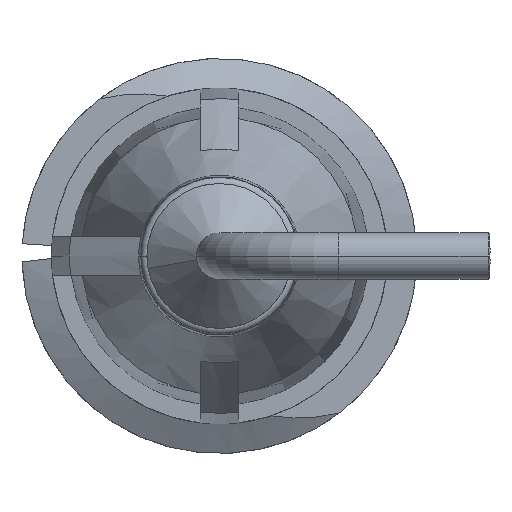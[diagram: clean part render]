
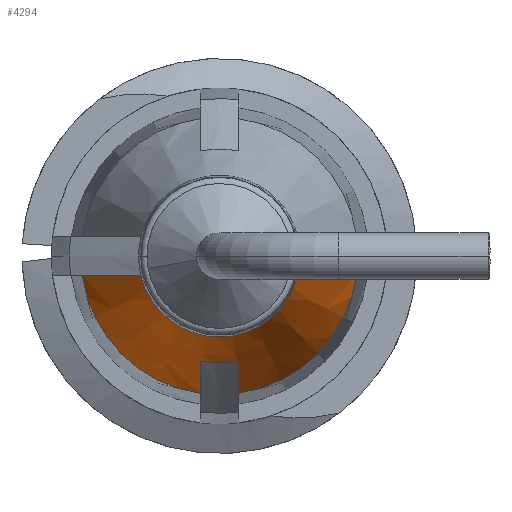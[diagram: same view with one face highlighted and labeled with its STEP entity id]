
A CAD part, front view. The second image highlights one B-rep face of the part: STEP entity #4294.
In plain terms, the highlighted conical face has half-angle 20 degrees and reference radius 2.745 mm.
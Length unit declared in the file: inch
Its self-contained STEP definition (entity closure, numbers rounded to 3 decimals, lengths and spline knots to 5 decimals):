
#20 = DIRECTION ( 'NONE',  ( 0., 1., 0. ) ) ;
#30 = B_SPLINE_CURVE_WITH_KNOTS ( 'NONE', 3,
 ( #3794, #2699, #1296, #1979 ),
 .UNSPECIFIED., .F., .F.,
 ( 4, 4 ),
 ( 0.00282, 0.00617 ),
 .UNSPECIFIED. ) ;
#45 = DIRECTION ( 'NONE',  ( 0., 1., 0. ) ) ;
#63 = DIRECTION ( 'NONE',  ( 1., 0., 0. ) ) ;
#87 = CARTESIAN_POINT ( 'NONE',  ( 0., -0.406, 0. ) ) ;
#95 = CARTESIAN_POINT ( 'NONE',  ( -0.015, -0.47395, -0.08198 ) ) ;
#260 = CONICAL_SURFACE ( 'NONE', #3918, 0.10808, 0.349 ) ;
#331 = CARTESIAN_POINT ( 'NONE',  ( 0.06119, -0.52985, -0.015 ) ) ;
#422 = ORIENTED_EDGE ( 'NONE', *, *, #4082, .T. ) ;
#437 = DIRECTION ( 'NONE',  ( 0., 1., 0. ) ) ;
#663 = CARTESIAN_POINT ( 'NONE',  ( -0.06119, -0.52985, -0.015 ) ) ;
#706 = VERTEX_POINT ( 'NONE', #663 ) ;
#764 = ORIENTED_EDGE ( 'NONE', *, *, #3597, .F. ) ;
#768 = DIRECTION ( 'NONE',  ( 1., 0., 0. ) ) ;
#1094 = CARTESIAN_POINT ( 'NONE',  ( 0., -0.52985, 0. ) ) ;
#1139 = CARTESIAN_POINT ( 'NONE',  ( 0., -0.406, 0. ) ) ;
#1167 = DIRECTION ( 'NONE',  ( 1., 0., 0. ) ) ;
#1175 = CARTESIAN_POINT ( 'NONE',  ( -0.015, -0.406, -0.10703 ) ) ;
#1215 = CARTESIAN_POINT ( 'NONE',  ( 0.015, -0.406, -0.10703 ) ) ;
#1243 = AXIS2_PLACEMENT_3D ( 'NONE', #3725, #437, #2405 ) ;
#1281 = CARTESIAN_POINT ( 'NONE',  ( 0.015, -0.406, -0.10703 ) ) ;
#1296 = CARTESIAN_POINT ( 'NONE',  ( -0.09185, -0.44732, -0.015 ) ) ;
#1444 = CARTESIAN_POINT ( 'NONE',  ( 0.10703, -0.406, -0.015 ) ) ;
#1502 = CARTESIAN_POINT ( 'NONE',  ( -0.015, -0.47395, -0.08198 ) ) ;
#1513 = CARTESIAN_POINT ( 'NONE',  ( 0.09185, -0.44732, -0.015 ) ) ;
#1580 = ORIENTED_EDGE ( 'NONE', *, *, #2225, .F. ) ;
#1598 = CARTESIAN_POINT ( 'NONE',  ( 0.015, -0.47395, -0.08198 ) ) ;
#1770 = CIRCLE ( 'NONE', #3755, 0.063 ) ;
#1806 = CARTESIAN_POINT ( 'NONE',  ( -0.015, -0.406, -0.10703 ) ) ;
#1854 = CIRCLE ( 'NONE', #3375, 0.10808 ) ;
#1949 = CARTESIAN_POINT ( 'NONE',  ( 0.015, -0.45131, -0.09036 ) ) ;
#1979 = CARTESIAN_POINT ( 'NONE',  ( -0.10703, -0.406, -0.015 ) ) ;
#1987 = EDGE_CURVE ( 'NONE', #3098, #2283, #3846, .T. ) ;
#2028 = ORIENTED_EDGE ( 'NONE', *, *, #1987, .F. ) ;
#2100 = ORIENTED_EDGE ( 'NONE', *, *, #4265, .F. ) ;
#2225 = EDGE_CURVE ( 'NONE', #3194, #3025, #4474, .T. ) ;
#2232 = EDGE_LOOP ( 'NONE', ( #2028, #4393, #422, #2100, #1580, #764, #3604, #2666 ) ) ;
#2271 = CARTESIAN_POINT ( 'NONE',  ( -0.015, -0.42866, -0.0987 ) ) ;
#2283 = VERTEX_POINT ( 'NONE', #3328 ) ;
#2317 = CARTESIAN_POINT ( 'NONE',  ( -0.015, -0.45131, -0.09036 ) ) ;
#2384 = CIRCLE ( 'NONE', #1243, 0.08335 ) ;
#2405 = DIRECTION ( 'NONE',  ( -1., 0., 0. ) ) ;
#2455 = EDGE_CURVE ( 'NONE', #4344, #4163, #4305, .T. ) ;
#2483 = CARTESIAN_POINT ( 'NONE',  ( 0.015, -0.47395, -0.08198 ) ) ;
#2592 = CARTESIAN_POINT ( 'NONE',  ( 0.06119, -0.52985, -0.015 ) ) ;
#2666 = ORIENTED_EDGE ( 'NONE', *, *, #3534, .F. ) ;
#2699 = CARTESIAN_POINT ( 'NONE',  ( -0.07664, -0.48863, -0.015 ) ) ;
#2883 = EDGE_CURVE ( 'NONE', #3098, #706, #1770, .T. ) ;
#2998 = FACE_OUTER_BOUND ( 'NONE', #2232, .T. ) ;
#3025 = VERTEX_POINT ( 'NONE', #1806 ) ;
#3098 = VERTEX_POINT ( 'NONE', #2592 ) ;
#3168 = AXIS2_PLACEMENT_3D ( 'NONE', #3325, #45, #63 ) ;
#3194 = VERTEX_POINT ( 'NONE', #1502 ) ;
#3325 = CARTESIAN_POINT ( 'NONE',  ( 0., -0.406, 0. ) ) ;
#3326 = CIRCLE ( 'NONE', #3168, 0.10808 ) ;
#3328 = CARTESIAN_POINT ( 'NONE',  ( 0.10703, -0.406, -0.015 ) ) ;
#3375 = AXIS2_PLACEMENT_3D ( 'NONE', #1139, #20, #4389 ) ;
#3534 = EDGE_CURVE ( 'NONE', #2283, #4344, #1854, .T. ) ;
#3597 = EDGE_CURVE ( 'NONE', #4163, #3194, #2384, .T. ) ;
#3604 = ORIENTED_EDGE ( 'NONE', *, *, #2455, .F. ) ;
#3677 = DIRECTION ( 'NONE',  ( 0., 1., 0. ) ) ;
#3725 = CARTESIAN_POINT ( 'NONE',  ( 0., -0.47395, 0. ) ) ;
#3726 = DIRECTION ( 'NONE',  ( 0., 1., 0. ) ) ;
#3739 = CARTESIAN_POINT ( 'NONE',  ( -0.10703, -0.406, -0.015 ) ) ;
#3755 = AXIS2_PLACEMENT_3D ( 'NONE', #1094, #3677, #768 ) ;
#3794 = CARTESIAN_POINT ( 'NONE',  ( -0.06119, -0.52985, -0.015 ) ) ;
#3805 = VERTEX_POINT ( 'NONE', #3739 ) ;
#3846 = B_SPLINE_CURVE_WITH_KNOTS ( 'NONE', 3,
 ( #331, #4718, #1513, #1444 ),
 .UNSPECIFIED., .F., .F.,
 ( 4, 4 ),
 ( 0.00282, 0.00617 ),
 .UNSPECIFIED. ) ;
#3918 = AXIS2_PLACEMENT_3D ( 'NONE', #87, #3726, #1167 ) ;
#4082 = EDGE_CURVE ( 'NONE', #706, #3805, #30, .T. ) ;
#4120 = CARTESIAN_POINT ( 'NONE',  ( 0.015, -0.42866, -0.0987 ) ) ;
#4163 = VERTEX_POINT ( 'NONE', #2483 ) ;
#4265 = EDGE_CURVE ( 'NONE', #3025, #3805, #3326, .T. ) ;
#4294 = ADVANCED_FACE ( 'NONE', ( #2998 ), #260, .T. ) ;
#4305 = B_SPLINE_CURVE_WITH_KNOTS ( 'NONE', 3,
 ( #1215, #4120, #1949, #1598 ),
 .UNSPECIFIED., .F., .F.,
 ( 4, 4 ),
 ( 0.00343, 0.00527 ),
 .UNSPECIFIED. ) ;
#4344 = VERTEX_POINT ( 'NONE', #1281 ) ;
#4389 = DIRECTION ( 'NONE',  ( 1., 0., 0. ) ) ;
#4393 = ORIENTED_EDGE ( 'NONE', *, *, #2883, .T. ) ;
#4474 = B_SPLINE_CURVE_WITH_KNOTS ( 'NONE', 3,
 ( #95, #2317, #2271, #1175 ),
 .UNSPECIFIED., .F., .F.,
 ( 4, 4 ),
 ( 0.00247, 0.00431 ),
 .UNSPECIFIED. ) ;
#4718 = CARTESIAN_POINT ( 'NONE',  ( 0.07664, -0.48863, -0.015 ) ) ;
